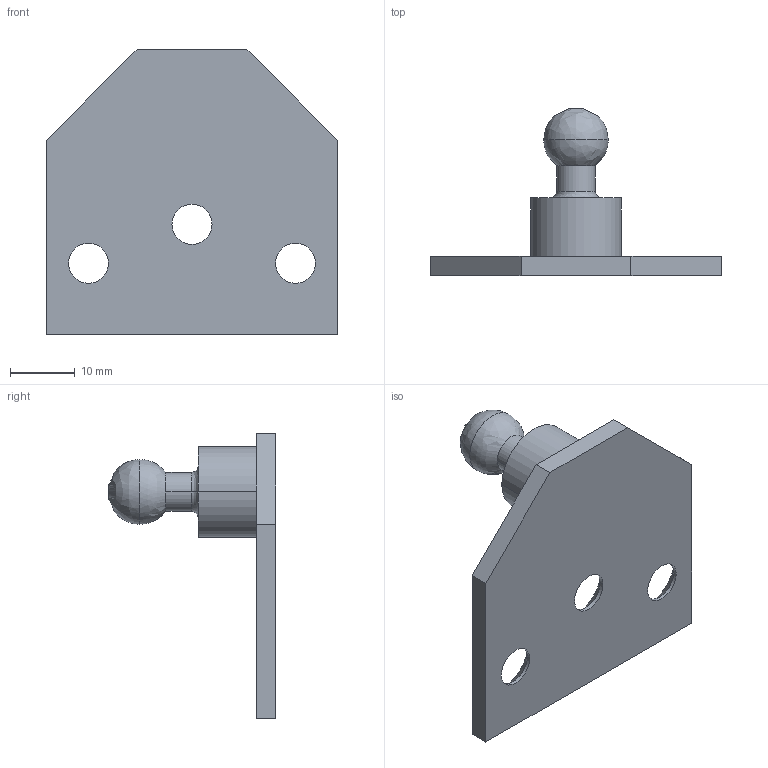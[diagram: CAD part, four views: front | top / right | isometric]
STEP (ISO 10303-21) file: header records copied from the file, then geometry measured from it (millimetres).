
FILE_DESCRIPTION (( 'STEP AP214' ), '1' );
FILE_NAME ('15.BS.A400.STEP', '2017-10-23T09:09:07', ( '' ), ( '' ), 'SwSTEP 2.0', 'SolidWorks 2016', '' );
FILE_SCHEMA (( 'AUTOMOTIVE_DESIGN' ));
Length unit declared in the file: millimetre
Products named in the file (1): 15.BS.A400
Bounding box: 45 x 25.9 x 44 mm (x, y, z)
Volume: 6877.8 mm3; surface area: 4720.7 mm2
Topology: 1 solids, 1 shells, 30 faces, 72 edges, 44 vertices
Faces by surface type: cylinder 10, plane 10, cone 6, bspline 4
Entity records: 968 total; most frequent: CARTESIAN_POINT 241, DIRECTION 148, ORIENTED_EDGE 136, EDGE_CURVE 68, AXIS2_PLACEMENT_3D 57, VERTEX_POINT 44, EDGE_LOOP 40, VECTOR 34
